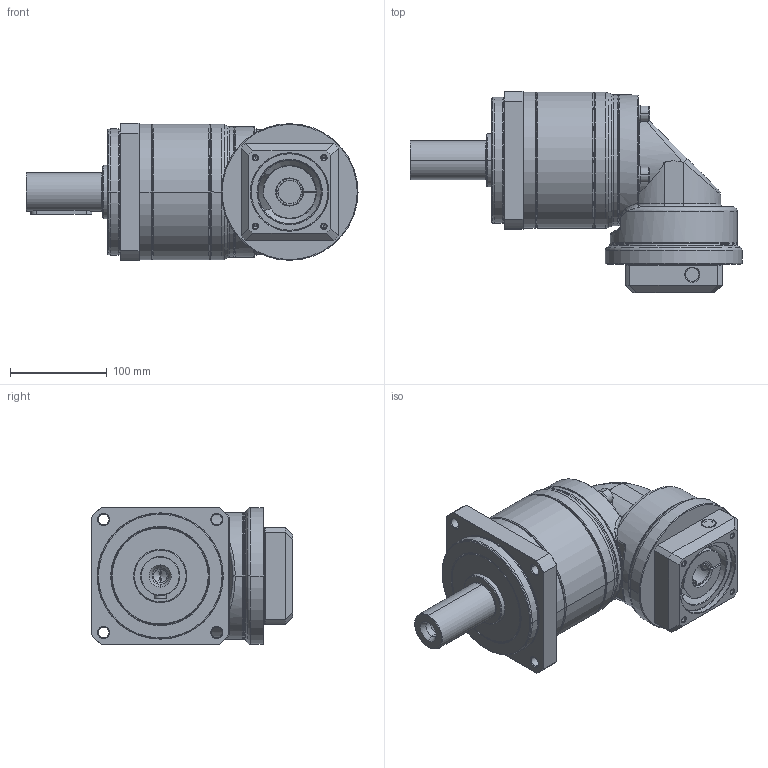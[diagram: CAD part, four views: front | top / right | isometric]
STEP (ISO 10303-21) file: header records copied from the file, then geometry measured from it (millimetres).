
FILE_DESCRIPTION((''),'2;1');
FILE_NAME('PA2R-142_1ST_24-P0411500101_ASM','2016-05-12T',('d01943'),(''),'PRO/ENGINEER BY PARAMETRIC TECHNOLOGY CORPORATION, 2008410','PRO/ENGINEER BY PARAMETRIC TECHNOLOGY CORPORATION, 2008410','');
FILE_SCHEMA(('CONFIG_CONTROL_DESIGN'));
Length unit declared in the file: millimetre
Products named in the file (12): P1327510001; P0250500001; P0350500601; P1349500001; P1017500001; P0713501001; P0503500008; P1350500101; P0411500101; P1702500001; 2111BA10040; PA2R-142_1ST_24-P0411500101_ASM
Assembly tree (14 placements, depth 2):
  PA2R-142_1ST_24-P0411500101_ASM
    P1327510001
    P0250500001
    P0350500601
    P1349500001
    P1017500001
    P0713501001
    P0503500008
    P1350500101
    P0411500101
    P1702500001
    2111BA10040  x4
Bounding box: 342.5 x 207.5 x 142 mm (x, y, z)
Volume: 2596361 mm3; surface area: 438059.3 mm2
Topology: 14 solids, 14 shells, 721 faces, 1591 edges, 921 vertices
Faces by surface type: cylinder 212, cone 208, plane 167, torus 102, bspline 32
Entity records: 23035 total; most frequent: CARTESIAN_POINT 9088, DIRECTION 3073, ORIENTED_EDGE 2710, EDGE_CURVE 1355, AXIS2_PLACEMENT_3D 1294, VERTEX_POINT 801, EDGE_LOOP 702, CIRCLE 678
